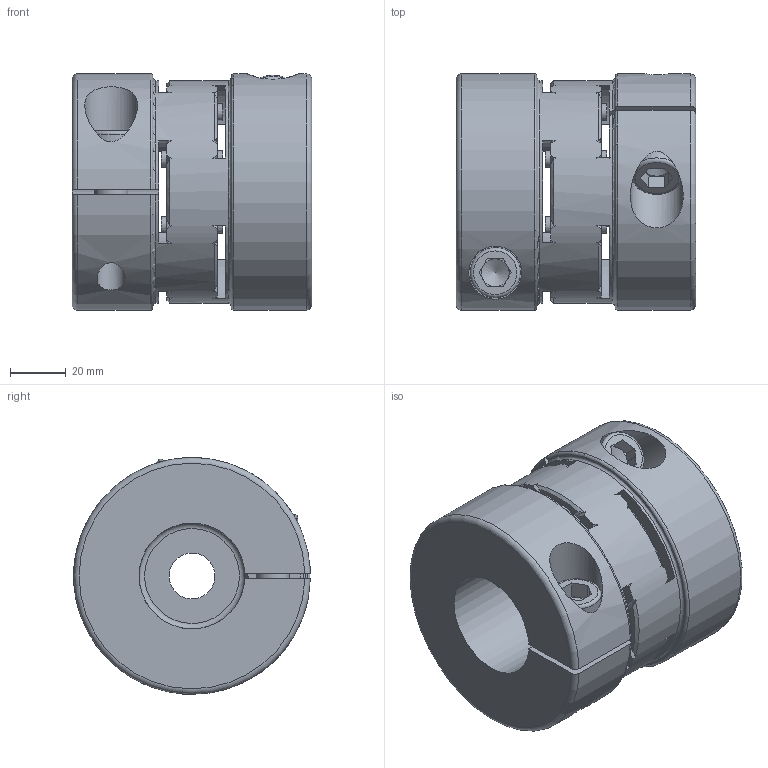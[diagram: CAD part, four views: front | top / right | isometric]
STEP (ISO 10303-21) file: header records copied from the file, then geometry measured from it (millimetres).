
FILE_DESCRIPTION(/* description */ ('Unknown','CAx-IF Rec.Pracs.---Representation and Presentation of Product Manufacturing Information (PMI)---4.0---2014-10-13','CAx-IF Rec.Pracs.---3D Tessellated Geometry---0.4---2014-09-14','2;1'),/* implementation_level */ '2;1');
FILE_NAME(/* name */ 'EKM - VA 220',/* time_stamp */ '2023-05-26T10:29:41+02:00',/* author */ ('Unknown'),/* organization */ ('Unknown'),/* preprocessor_version */ 'ST-DEVELOPER v18.102',/* originating_system */ 'Solid Edge',/* authorisation */ 'Unknown');
FILE_SCHEMA (('AP242_MANAGED_MODEL_BASED_3D_ENGINEERING_MIM_LF { 1 0 10303 442 1 1 4 }'));
Length unit declared in the file: millimetre
Products named in the file (1): EKM - VA 220
Bounding box: 86 x 84.99 x 84.99 mm (x, y, z)
Volume: 344157.5 mm3; surface area: 66440.8 mm2
Topology: 1 solids, 1 shells, 235 faces, 668 edges, 430 vertices
Faces by surface type: cylinder 93, cone 68, plane 64, torus 10
Full cylindrical faces by diameter (mm): 6 x8, 10.2 x2, 12 x2, 12.5 x2, 16.5 x1, 18 x2, 19 x2, 38 x2, 80 x1
Entity records: 9770 total; most frequent: CARTESIAN_POINT 2286, ORIENTED_EDGE 1240, DIRECTION 1186, EDGE_CURVE 620, AXIS2_PLACEMENT_3D 506, VERTEX_POINT 416, FACE_BOUND 296, EDGE_LOOP 294
